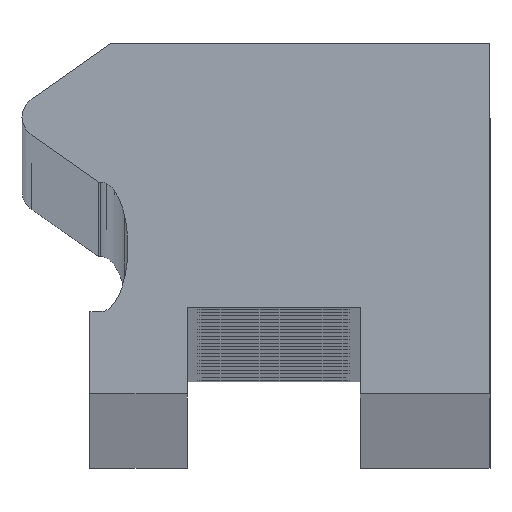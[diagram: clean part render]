
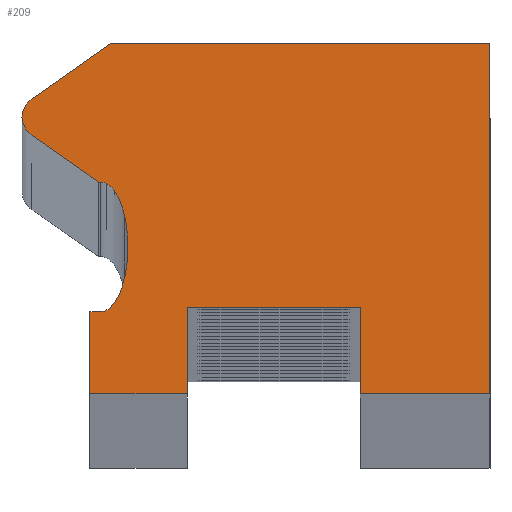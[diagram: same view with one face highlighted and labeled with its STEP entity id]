
A CAD part, top view. The second image highlights one B-rep face of the part: STEP entity #209.
In plain terms, the highlighted planar face has unit normal (0, 0, 1).
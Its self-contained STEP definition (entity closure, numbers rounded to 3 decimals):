
#209=ADVANCED_FACE('',(#545),#546,.F.);
#545=FACE_OUTER_BOUND('',#881,.T.);
#546=PLANE('',#882);
#881=EDGE_LOOP('',(#1928,#1929,#1930,#1931,#1932,#1933,#1934,#1935,#1936,#1937,#1938,#1939,#1940,#1941,#1942,#1943,#1944,#1945,#1946,#1947,#1948,#1949,#1950));
#882=AXIS2_PLACEMENT_3D('',#1951,#1952,#1953);
#1928=ORIENTED_EDGE('',*,*,#2286,.F.);
#1929=ORIENTED_EDGE('',*,*,#2232,.F.);
#1930=ORIENTED_EDGE('',*,*,#2235,.F.);
#1931=ORIENTED_EDGE('',*,*,#1963,.F.);
#1932=ORIENTED_EDGE('',*,*,#2238,.F.);
#1933=ORIENTED_EDGE('',*,*,#2241,.F.);
#1934=ORIENTED_EDGE('',*,*,#2244,.T.);
#1935=ORIENTED_EDGE('',*,*,#2247,.T.);
#1936=ORIENTED_EDGE('',*,*,#2250,.T.);
#1937=ORIENTED_EDGE('',*,*,#2253,.T.);
#1938=ORIENTED_EDGE('',*,*,#2254,.T.);
#1939=ORIENTED_EDGE('',*,*,#1961,.T.);
#1940=ORIENTED_EDGE('',*,*,#2256,.T.);
#1941=ORIENTED_EDGE('',*,*,#1957,.T.);
#1942=ORIENTED_EDGE('',*,*,#2260,.T.);
#1943=ORIENTED_EDGE('',*,*,#2263,.T.);
#1944=ORIENTED_EDGE('',*,*,#2266,.T.);
#1945=ORIENTED_EDGE('',*,*,#2269,.F.);
#1946=ORIENTED_EDGE('',*,*,#2272,.F.);
#1947=ORIENTED_EDGE('',*,*,#2275,.F.);
#1948=ORIENTED_EDGE('',*,*,#2278,.F.);
#1949=ORIENTED_EDGE('',*,*,#2281,.F.);
#1950=ORIENTED_EDGE('',*,*,#2284,.F.);
#1951=CARTESIAN_POINT('',(0.061,3.995,986.0));
#1952=DIRECTION('',(0.,0.0,-1.0));
#1953=DIRECTION('',(-1.0,0.0,0.));
#1957=EDGE_CURVE('',#2288,#2292,#2294,.T.);
#1961=EDGE_CURVE('',#2296,#2300,#2302,.T.);
#1963=EDGE_CURVE('',#2303,#2306,#2307,.T.);
#2232=EDGE_CURVE('',#2754,#2756,#2757,.T.);
#2235=EDGE_CURVE('',#2306,#2754,#2760,.T.);
#2238=EDGE_CURVE('',#2763,#2303,#2765,.T.);
#2241=EDGE_CURVE('',#2768,#2763,#2770,.T.);
#2244=EDGE_CURVE('',#2768,#2773,#2775,.T.);
#2247=EDGE_CURVE('',#2773,#2778,#2780,.T.);
#2250=EDGE_CURVE('',#2778,#2783,#2785,.T.);
#2253=EDGE_CURVE('',#2783,#2788,#2790,.T.);
#2254=EDGE_CURVE('',#2788,#2296,#2791,.T.);
#2256=EDGE_CURVE('',#2300,#2288,#2793,.T.);
#2260=EDGE_CURVE('',#2292,#2797,#2799,.T.);
#2263=EDGE_CURVE('',#2797,#2802,#2804,.T.);
#2266=EDGE_CURVE('',#2802,#2807,#2809,.T.);
#2269=EDGE_CURVE('',#2812,#2807,#2814,.T.);
#2272=EDGE_CURVE('',#2817,#2812,#2819,.T.);
#2275=EDGE_CURVE('',#2822,#2817,#2824,.T.);
#2278=EDGE_CURVE('',#2827,#2822,#2829,.T.);
#2281=EDGE_CURVE('',#2832,#2827,#2834,.T.);
#2284=EDGE_CURVE('',#2837,#2832,#2839,.T.);
#2286=EDGE_CURVE('',#2756,#2837,#2841,.T.);
#2288=VERTEX_POINT('',#2843);
#2292=VERTEX_POINT('',#2848);
#2294=CIRCLE('',#2851,2.953);
#2296=VERTEX_POINT('',#2853);
#2300=VERTEX_POINT('',#2858);
#2302=CIRCLE('',#2861,3.259);
#2303=VERTEX_POINT('',#2862);
#2306=VERTEX_POINT('',#2866);
#2307=CIRCLE('',#2867,0.5);
#2754=VERTEX_POINT('',#3404);
#2756=VERTEX_POINT('',#3407);
#2757=LINE('',#3408,#3409);
#2760=LINE('',#3414,#3415);
#2763=VERTEX_POINT('',#3418);
#2765=CIRCLE('',#3421,0.5);
#2768=VERTEX_POINT('',#3425);
#2770=LINE('',#3428,#3429);
#2773=VERTEX_POINT('',#3433);
#2775=LINE('',#3436,#3437);
#2778=VERTEX_POINT('',#3440);
#2780=CIRCLE('',#3443,0.315);
#2783=VERTEX_POINT('',#3446);
#2785=CIRCLE('',#3449,0.568);
#2788=VERTEX_POINT('',#3452);
#2790=CIRCLE('',#3455,1.711);
#2791=CIRCLE('',#3456,3.259);
#2793=CIRCLE('',#3458,2.953);
#2797=VERTEX_POINT('',#3462);
#2799=CIRCLE('',#3465,1.218);
#2802=VERTEX_POINT('',#3468);
#2804=CIRCLE('',#3471,0.358);
#2807=VERTEX_POINT('',#3475);
#2809=LINE('',#3478,#3479);
#2812=VERTEX_POINT('',#3483);
#2814=LINE('',#3486,#3487);
#2817=VERTEX_POINT('',#3491);
#2819=LINE('',#3494,#3495);
#2822=VERTEX_POINT('',#3499);
#2824=LINE('',#3502,#3503);
#2827=VERTEX_POINT('',#3507);
#2829=LINE('',#3510,#3511);
#2832=VERTEX_POINT('',#3515);
#2834=LINE('',#3518,#3519);
#2837=VERTEX_POINT('',#3523);
#2839=LINE('',#3526,#3527);
#2841=LINE('',#3530,#3531);
#2843=CARTESIAN_POINT('',(-3.37,3.355,986.0));
#2848=CARTESIAN_POINT('',(-3.505,2.473,986.0));
#2851=AXIS2_PLACEMENT_3D('',#3537,#3538,#3539);
#2853=CARTESIAN_POINT('',(-3.37,3.414,986.0));
#2858=CARTESIAN_POINT('',(-3.37,3.392,986.0));
#2861=AXIS2_PLACEMENT_3D('',#3545,#3546,#3547);
#2862=CARTESIAN_POINT('',(-5.818,6.4,986.0));
#2866=CARTESIAN_POINT('',(-5.605,6.81,986.0));
#2867=AXIS2_PLACEMENT_3D('',#3549,#3550,#3551);
#3404=CARTESIAN_POINT('',(-3.762,8.1,986.0));
#3407=CARTESIAN_POINT('',(5.,8.1,986.0));
#3408=CARTESIAN_POINT('',(-3.762,8.1,986.0));
#3409=VECTOR('',#4174,1.0);
#3414=CARTESIAN_POINT('',(-5.605,6.81,986.0));
#3415=VECTOR('',#4177,1.0);
#3418=CARTESIAN_POINT('',(-5.605,5.99,986.0));
#3421=AXIS2_PLACEMENT_3D('',#4182,#4183,#4184);
#3425=CARTESIAN_POINT('',(-4.048,4.9,986.0));
#3428=CARTESIAN_POINT('',(-4.048,4.9,986.0));
#3429=VECTOR('',#4187,1.0);
#3433=CARTESIAN_POINT('',(-4.,4.9,986.0));
#3436=CARTESIAN_POINT('',(-4.048,4.9,986.0));
#3437=VECTOR('',#4190,1.0);
#3440=CARTESIAN_POINT('',(-3.864,4.865,986.0));
#3443=AXIS2_PLACEMENT_3D('',#4195,#4196,#4197);
#3446=CARTESIAN_POINT('',(-3.685,4.706,986.0));
#3449=AXIS2_PLACEMENT_3D('',#4202,#4203,#4204);
#3452=CARTESIAN_POINT('',(-3.447,4.121,986.0));
#3455=AXIS2_PLACEMENT_3D('',#4209,#4210,#4211);
#3456=AXIS2_PLACEMENT_3D('',#4212,#4213,#4214);
#3458=AXIS2_PLACEMENT_3D('',#4218,#4219,#4220);
#3462=CARTESIAN_POINT('',(-3.756,2.017,986.0));
#3465=AXIS2_PLACEMENT_3D('',#4228,#4229,#4230);
#3468=CARTESIAN_POINT('',(-4.,1.9,986.0));
#3471=AXIS2_PLACEMENT_3D('',#4235,#4236,#4237);
#3475=CARTESIAN_POINT('',(-4.25,1.9,986.0));
#3478=CARTESIAN_POINT('',(-4.,1.9,986.0));
#3479=VECTOR('',#4240,1.0);
#3483=CARTESIAN_POINT('',(-4.25,0.0,986.0));
#3486=CARTESIAN_POINT('',(-4.25,0.0,986.0));
#3487=VECTOR('',#4243,1.0);
#3491=CARTESIAN_POINT('',(-2.,0.0,986.0));
#3494=CARTESIAN_POINT('',(-2.,0.0,986.0));
#3495=VECTOR('',#4246,1.0);
#3499=CARTESIAN_POINT('',(-2.,2.0,986.0));
#3502=CARTESIAN_POINT('',(-2.,2.0,986.0));
#3503=VECTOR('',#4249,1.0);
#3507=CARTESIAN_POINT('',(2.,2.0,986.0));
#3510=CARTESIAN_POINT('',(2.,2.0,986.0));
#3511=VECTOR('',#4252,1.0);
#3515=CARTESIAN_POINT('',(2.,0.0,986.0));
#3518=CARTESIAN_POINT('',(2.,0.0,986.0));
#3519=VECTOR('',#4255,1.0);
#3523=CARTESIAN_POINT('',(5.,0.0,986.0));
#3526=CARTESIAN_POINT('',(5.,0.0,986.0));
#3527=VECTOR('',#4258,1.0);
#3530=CARTESIAN_POINT('',(5.,8.1,986.0));
#3531=VECTOR('',#4260,1.0);
#3537=CARTESIAN_POINT('',(-6.322,3.355,986.0));
#3538=DIRECTION('',(0.,0.0,-1.0));
#3539=DIRECTION('',(-1.0,0.0,0.));
#3545=CARTESIAN_POINT('',(-6.629,3.414,986.0));
#3546=DIRECTION('',(0.,0.0,-1.0));
#3547=DIRECTION('',(-1.0,0.0,0.));
#3549=CARTESIAN_POINT('',(-5.318,6.4,986.0));
#3550=DIRECTION('',(0.,0.0,-1.0));
#3551=DIRECTION('',(-1.0,0.0,0.));
#4174=DIRECTION('',(1.0,0.0,0.));
#4177=DIRECTION('',(0.819,0.574,0.));
#4182=CARTESIAN_POINT('',(-5.318,6.4,986.0));
#4183=DIRECTION('',(0.,0.0,-1.0));
#4184=DIRECTION('',(-1.0,0.0,0.));
#4187=DIRECTION('',(-0.819,0.574,0.));
#4190=DIRECTION('',(1.0,0.0,0.));
#4195=CARTESIAN_POINT('',(-4.009,4.585,986.0));
#4196=DIRECTION('',(0.,0.0,-1.0));
#4197=DIRECTION('',(-1.0,0.0,0.));
#4202=CARTESIAN_POINT('',(-4.142,4.37,986.0));
#4203=DIRECTION('',(0.,0.0,-1.0));
#4204=DIRECTION('',(-1.0,0.0,0.));
#4209=CARTESIAN_POINT('',(-5.124,3.782,986.0));
#4210=DIRECTION('',(0.,0.0,-1.0));
#4211=DIRECTION('',(-1.0,0.0,0.));
#4212=CARTESIAN_POINT('',(-6.629,3.414,986.0));
#4213=DIRECTION('',(0.,0.0,-1.0));
#4214=DIRECTION('',(-1.0,0.0,0.));
#4218=CARTESIAN_POINT('',(-6.322,3.355,986.0));
#4219=DIRECTION('',(0.,0.0,-1.0));
#4220=DIRECTION('',(-1.0,0.0,0.));
#4228=CARTESIAN_POINT('',(-4.673,2.819,986.0));
#4229=DIRECTION('',(0.,0.0,-1.0));
#4230=DIRECTION('',(-1.0,0.0,0.));
#4235=CARTESIAN_POINT('',(-4.022,2.258,986.0));
#4236=DIRECTION('',(0.,0.0,-1.0));
#4237=DIRECTION('',(-1.0,0.0,0.));
#4240=DIRECTION('',(-1.0,0.0,0.));
#4243=DIRECTION('',(0.0,1.0,0.0));
#4246=DIRECTION('',(-1.0,0.0,0.));
#4249=DIRECTION('',(0.0,-1.0,-0.0));
#4252=DIRECTION('',(-1.0,0.0,0.));
#4255=DIRECTION('',(0.0,1.0,0.0));
#4258=DIRECTION('',(-1.0,0.0,0.));
#4260=DIRECTION('',(0.0,-1.0,-0.0));
